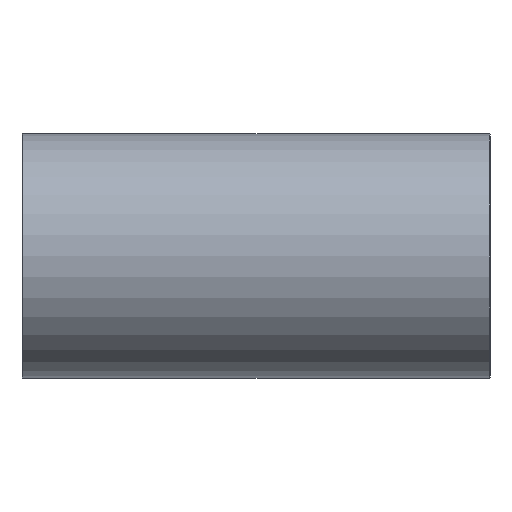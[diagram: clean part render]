
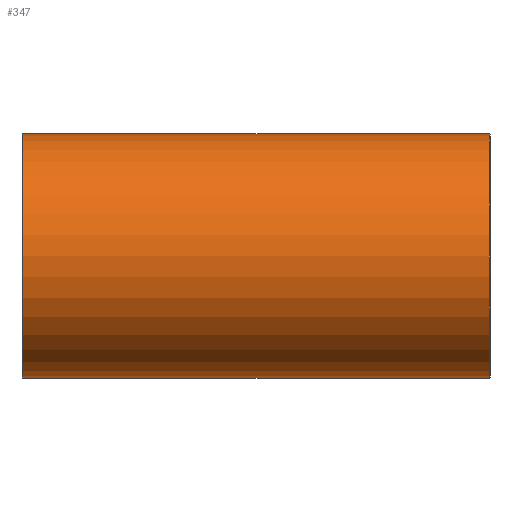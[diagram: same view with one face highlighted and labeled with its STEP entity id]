
A CAD part, left-side view. The second image highlights one B-rep face of the part: STEP entity #347.
In plain terms, the highlighted cylindrical face has radius 62.389 mm (diameter 124.777 mm), a full revolution.
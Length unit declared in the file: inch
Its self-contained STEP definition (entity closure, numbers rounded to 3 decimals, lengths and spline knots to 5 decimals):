
#38=CYLINDRICAL_SURFACE('',#399,2.45625);
#59=FACE_BOUND('',#135,.T.);
#90=FACE_OUTER_BOUND('',#134,.T.);
#134=EDGE_LOOP('',(#294));
#135=EDGE_LOOP('',(#295));
#188=CIRCLE('',#398,2.45625);
#189=CIRCLE('',#400,2.45625);
#220=VERTEX_POINT('',#609);
#221=VERTEX_POINT('',#612);
#252=EDGE_CURVE('',#220,#220,#188,.T.);
#253=EDGE_CURVE('',#221,#221,#189,.T.);
#294=ORIENTED_EDGE('',*,*,#253,.F.);
#295=ORIENTED_EDGE('',*,*,#252,.F.);
#347=ADVANCED_FACE('',(#90,#59),#38,.T.);
#398=AXIS2_PLACEMENT_3D('',#610,#493,#494);
#399=AXIS2_PLACEMENT_3D('',#611,#495,#496);
#400=AXIS2_PLACEMENT_3D('',#613,#497,#498);
#493=DIRECTION('center_axis',(0.,1.,0.));
#494=DIRECTION('ref_axis',(-1.,0.,0.));
#495=DIRECTION('center_axis',(0.,-1.,0.));
#496=DIRECTION('ref_axis',(1.,0.,0.));
#497=DIRECTION('center_axis',(0.,-1.,0.));
#498=DIRECTION('ref_axis',(-1.,0.,0.));
#609=CARTESIAN_POINT('',(2.45625,-0.02,0.));
#610=CARTESIAN_POINT('Origin',(0.,-0.02,0.));
#611=CARTESIAN_POINT('Origin',(0.,-4.69875,0.));
#612=CARTESIAN_POINT('',(2.45625,-9.3775,0.));
#613=CARTESIAN_POINT('Origin',(0.,-9.3775,0.));
